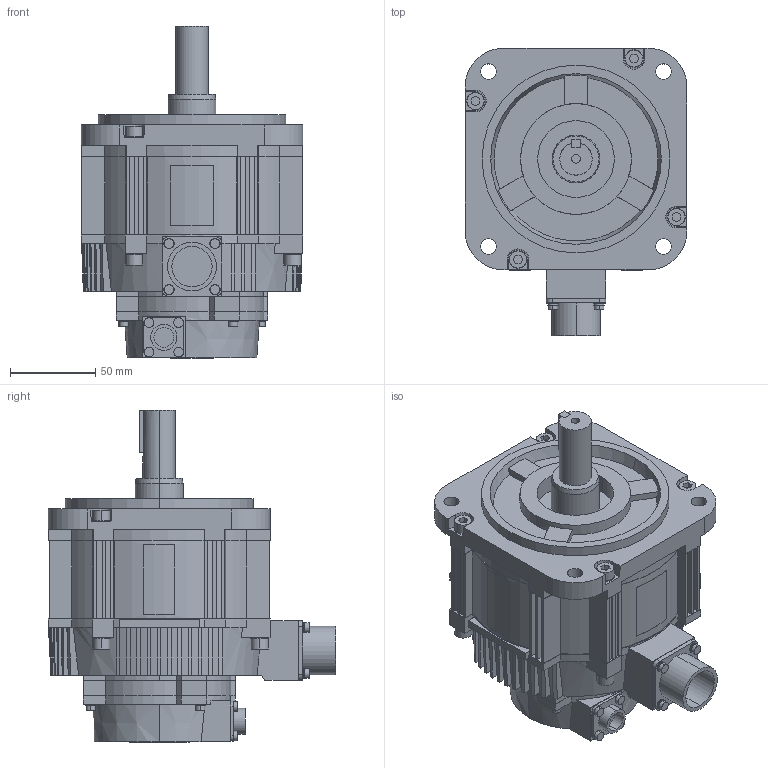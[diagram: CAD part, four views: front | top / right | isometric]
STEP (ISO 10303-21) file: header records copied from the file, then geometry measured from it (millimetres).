
FILE_DESCRIPTION (( 'STEP AP203' ), '1' );
FILE_NAME ('sgmgv_09__a61.STEP', '2009-02-06T06:14:39', ( 'T' ), ( 'T' ), 'SwSTEP 2.0', 'SolidWorks 2006052', '' );
FILE_SCHEMA (( 'CONFIG_CONTROL_DESIGN' ));
Length unit declared in the file: millimetre
Products named in the file (3): sgmgv_09__a61; sgmgv_09__a61_base; sgmgv_09__a61_key
Assembly tree (2 placements, depth 2):
  sgmgv_09__a61
    sgmgv_09__a61_base
    sgmgv_09__a61_key
Bounding box: 130 x 168.49 x 194.6 mm (x, y, z)
Volume: 1608384.5 mm3; surface area: 133605.4 mm2
Topology: 2 solids, 2 shells, 814 faces, 2140 edges, 1398 vertices
Faces by surface type: plane 531, cylinder 195, cone 88
Entity records: 25862 total; most frequent: CARTESIAN_POINT 5154, ORIENTED_EDGE 4280, DIRECTION 4249, EDGE_CURVE 2140, AXIS2_PLACEMENT_3D 1453, VERTEX_POINT 1398, VECTOR 1343, LINE 1343
